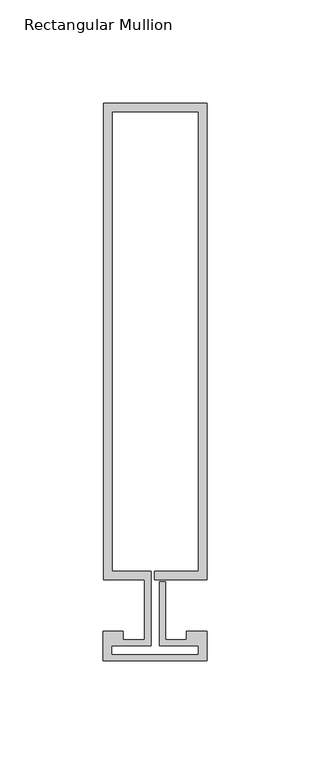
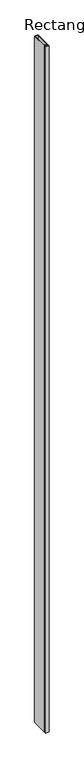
"""IFC4 building model written with IfcOpenShell, lengths in millimetres: member geometry, Rectangular Mullion : Reynaers_CW-50_Mullion-Transom_Vertical_230.5mm_Facecap-02A."""

from ifc_helpers import new_model, si_unit, frame, origin, place, context, project, spatial, polyline, outline, extrude, source, transform, mapped, element, save


def rectangular_mullion_8de3acb8(model_context):
    return source(origin(), model_context, "Body", "SweptSolid", [
        extrude(outline(polyline([(-24.8004059, 243.0), (25.1995941, 243.0), (25.1995941, 12.5), (0.0, 12.5), (0.0, 16.5), (21.1995941, 16.5), (21.1995941, 239.0), (-20.8004059, 239.0), (-20.8004059, 16.5), (-1.9004059, 16.5), (-1.9004059, -19.5), (-20.994845, -19.5), (-20.994845, -23.7191338), (21.1995941, -23.7191338), (21.1995941, -19.5), (2.2995941, -19.5), (2.2995941, 11.5), (5.2995941, 11.5), (5.2995941, -16.5), (15.2996495, -16.5), (15.2996495, -12.5), (25.1995941, -12.5), (25.1995941, -26.8), (-24.994845, -26.8), (-24.994845, -12.5), (-15.2996495, -12.5), (-15.2996495, -16.5), (-4.9004059, -16.5), (-4.9004059, 12.5), (-24.8004059, 12.5), (-24.8004059, 243.0)])), frame((0.0, 0.0, -10400.0), z_axis=(0.0, 0.0, 1.0), x_axis=(1.0, 0.0, 0.0)), (0.0, 0.0, 1.0), 10400.0),
    ])


if __name__ == "__main__":
    model = new_model("IFC4")
    model_context = context("Model", 3, world=origin())
    ifc_project = project(units=[si_unit("LENGTHUNIT", "METRE", prefix="MILLI")], contexts=[model_context])
    site = spatial("IfcSite", under=ifc_project)
    building = spatial("IfcBuilding", under=site)
    placement = place(None, origin())
    rectangular_mullion_shape = rectangular_mullion_8de3acb8(model_context)
    element("IfcMember", 1, ObjectType="Rectangular Mullion : Reynaers_CW-50_Mullion-Transom_Vertical_230.5mm_Facecap-02A", at=placement, inside=building, context=model_context, shape_type="MappedRepresentation", body=[
        mapped(rectangular_mullion_shape, transform((0.0, 0.0, 0.0), x_axis=(1.0, 0.0, 0.0), y_axis=(0.0, 1.0, 0.0), z_axis=(0.0, 0.0, 1.0))),
    ])
    save(model, "model.ifc")
